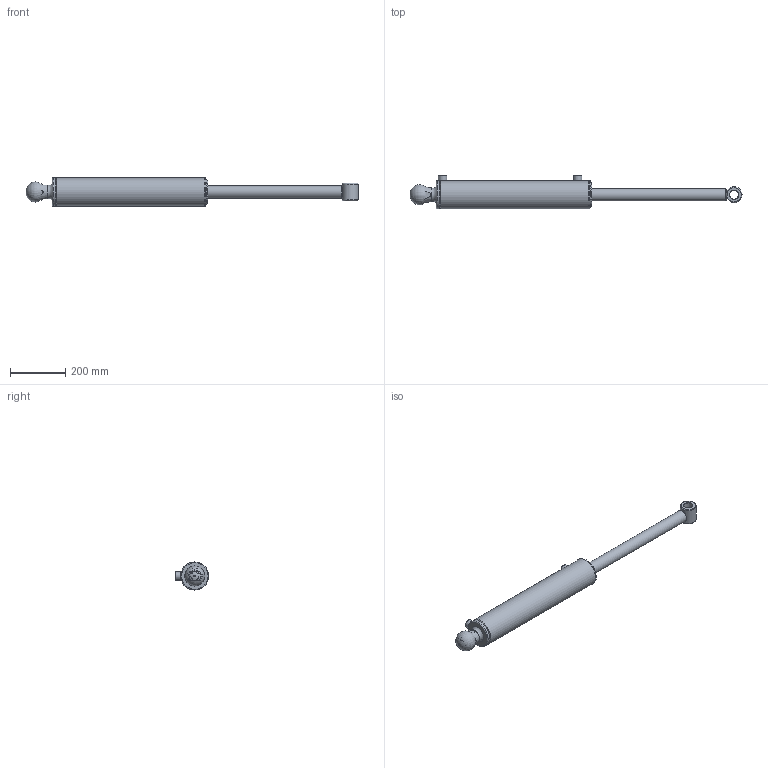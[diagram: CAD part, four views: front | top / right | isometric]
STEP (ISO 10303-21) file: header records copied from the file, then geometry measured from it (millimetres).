
FILE_DESCRIPTION(/* description */ ('Alibre Inc.'),/* implementation_level */ '2;1');
FILE_NAME(/* name */ 'export0',/* time_stamp */ '2016-08-16T10:04:38+12:00',/* author */ (''),/* organization */ (''),/* preprocessor_version */ 'ST-DEVELOPER v14',/* originating_system */ 'Alibre',/* authorisation */ '');
FILE_SCHEMA (('AUTOMOTIVE_DESIGN'));
Length unit declared in the file: centimetre
Bounding box: 1198.91 x 121.6 x 101.6 mm (x, y, z)
Volume: 2893797.4 mm3; surface area: 616098.6 mm2
Topology: 12 solids, 12 shells, 148 faces, 306 edges, 191 vertices
Faces by surface type: cylinder 57, plane 48, cone 26, torus 16, bspline 1
Full cylindrical faces by diameter (mm): 7 x1, 8.3 x2, 8.4 x1, 12.7 x2, 19.1 x2, 29.35 x1, 29.972 x1, 30 x2, 31.75 x1, 31.8 x1, 31.801 x1, 44.45 x2, 44.53 x2, 50.8 x1, 53.25 x2, 53.97 x2, 57.15 x1, 73.03 x1, 81.9 x1, 83.06 x1, 84.3 x2, 85.27 x2, 85.5 x1, 87.53 x2, 88.75 x1, 88.79 x2, 88.9 x2, 92.1 x1, 101.6 x3
Entity records: 4071 total; most frequent: CARTESIAN_POINT 1180, DIRECTION 562, ORIENTED_EDGE 372, AXIS2_PLACEMENT_3D 297, FACE_BOUND 270, EDGE_LOOP 267, EDGE_CURVE 186, VERTEX_POINT 166
